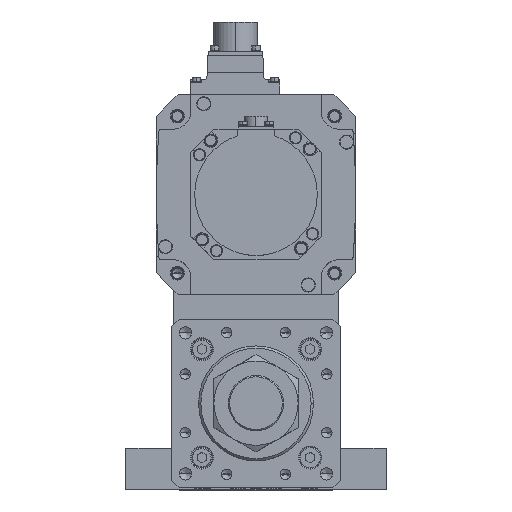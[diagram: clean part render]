
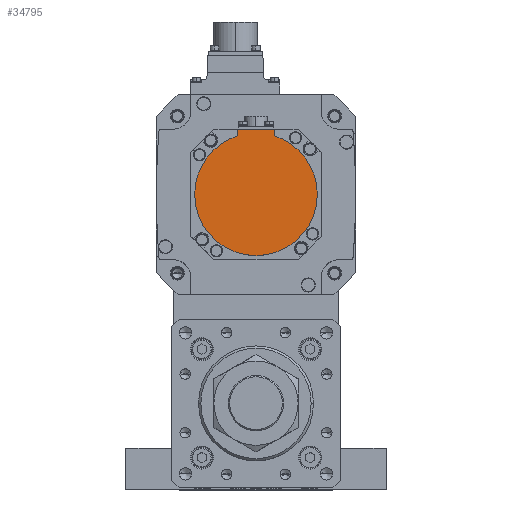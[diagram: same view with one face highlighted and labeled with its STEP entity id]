
A CAD part, top view. The second image highlights one B-rep face of the part: STEP entity #34795.
In plain terms, the highlighted planar face has unit normal (0, 0, 1) as drawn and (0, 0, -1) by its records, which use the part's own axes.
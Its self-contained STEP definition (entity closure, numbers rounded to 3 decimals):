
#69 = DIRECTION ( 'NONE',  ( 0., 0., 1. ) ) ;
#1215 = DIRECTION ( 'NONE',  ( 1., 0., 0. ) ) ;
#1249 = ORIENTED_EDGE ( 'NONE', *, *, #19456, .F. ) ;
#2670 = DIRECTION ( 'NONE',  ( 0., 1., 0. ) ) ;
#3584 = CARTESIAN_POINT ( 'NONE',  ( -12., -40.329, -132.5 ) ) ;
#4799 = FACE_OUTER_BOUND ( 'NONE', #26441, .T. ) ;
#5149 = AXIS2_PLACEMENT_3D ( 'NONE', #23053, #31070, #1215 ) ;
#5410 = ORIENTED_EDGE ( 'NONE', *, *, #15918, .T. ) ;
#5488 = DIRECTION ( 'NONE',  ( 1., 0., 0. ) ) ;
#6257 = AXIS2_PLACEMENT_3D ( 'NONE', #9164, #20417, #15015 ) ;
#6549 = CARTESIAN_POINT ( 'NONE',  ( 40., 0., -132.5 ) ) ;
#6682 = LINE ( 'NONE', #3584, #23013 ) ;
#7034 = VERTEX_POINT ( 'NONE', #6549 ) ;
#7526 = EDGE_CURVE ( 'NONE', #24973, #15841, #6682, .T. ) ;
#9164 = CARTESIAN_POINT ( 'NONE',  ( 0., 0., -132.5 ) ) ;
#10830 = AXIS2_PLACEMENT_3D ( 'NONE', #33177, #24912, #5488 ) ;
#11169 = DIRECTION ( 'NONE',  ( -1., 0., 0. ) ) ;
#11888 = AXIS2_PLACEMENT_3D ( 'NONE', #27608, #69, #19369 ) ;
#12227 = CARTESIAN_POINT ( 'NONE',  ( 12., -38.158, -132.5 ) ) ;
#12809 = EDGE_CURVE ( 'NONE', #16243, #19723, #16475, .T. ) ;
#15015 = DIRECTION ( 'NONE',  ( 1., 0., 0. ) ) ;
#15458 = EDGE_CURVE ( 'NONE', #7034, #19021, #29635, .T. ) ;
#15841 = VERTEX_POINT ( 'NONE', #19793 ) ;
#15886 = ORIENTED_EDGE ( 'NONE', *, *, #15458, .F. ) ;
#15918 = EDGE_CURVE ( 'NONE', #16243, #24973, #30900, .T. ) ;
#16243 = VERTEX_POINT ( 'NONE', #24371 ) ;
#16475 = LINE ( 'NONE', #35092, #28461 ) ;
#17145 = CARTESIAN_POINT ( 'NONE',  ( 0., -42.5, -132.5 ) ) ;
#19021 = VERTEX_POINT ( 'NONE', #31959 ) ;
#19369 = DIRECTION ( 'NONE',  ( 1., 0., 0. ) ) ;
#19456 = EDGE_CURVE ( 'NONE', #19021, #15841, #20858, .T. ) ;
#19723 = VERTEX_POINT ( 'NONE', #12227 ) ;
#19793 = CARTESIAN_POINT ( 'NONE',  ( -12., -38.158, -132.5 ) ) ;
#20417 = DIRECTION ( 'NONE',  ( 0., 0., 1. ) ) ;
#20858 = CIRCLE ( 'NONE', #10830, 40. ) ;
#22404 = CARTESIAN_POINT ( 'NONE',  ( -12., -42.5, -132.5 ) ) ;
#23013 = VECTOR ( 'NONE', #30542, 1000. ) ;
#23053 = CARTESIAN_POINT ( 'NONE',  ( 0., -1.249, -132.5 ) ) ;
#24371 = CARTESIAN_POINT ( 'NONE',  ( 12., -42.5, -132.5 ) ) ;
#24459 = ORIENTED_EDGE ( 'NONE', *, *, #12809, .F. ) ;
#24912 = DIRECTION ( 'NONE',  ( 0., 0., 1. ) ) ;
#24973 = VERTEX_POINT ( 'NONE', #22404 ) ;
#26441 = EDGE_LOOP ( 'NONE', ( #34658, #1249, #15886, #32890, #24459, #5410 ) ) ;
#27016 = VECTOR ( 'NONE', #11169, 1000. ) ;
#27608 = CARTESIAN_POINT ( 'NONE',  ( 0., 0., -132.5 ) ) ;
#28086 = CIRCLE ( 'NONE', #6257, 40. ) ;
#28461 = VECTOR ( 'NONE', #2670, 1000. ) ;
#29635 = CIRCLE ( 'NONE', #11888, 40. ) ;
#30542 = DIRECTION ( 'NONE',  ( 0., 1., 0. ) ) ;
#30900 = LINE ( 'NONE', #17145, #27016 ) ;
#31070 = DIRECTION ( 'NONE',  ( 0., 0., 1. ) ) ;
#31185 = PLANE ( 'NONE',  #5149 ) ;
#31959 = CARTESIAN_POINT ( 'NONE',  ( -40., 0., -132.5 ) ) ;
#32890 = ORIENTED_EDGE ( 'NONE', *, *, #33193, .F. ) ;
#33177 = CARTESIAN_POINT ( 'NONE',  ( 0., 0., -132.5 ) ) ;
#33193 = EDGE_CURVE ( 'NONE', #19723, #7034, #28086, .T. ) ;
#34658 = ORIENTED_EDGE ( 'NONE', *, *, #7526, .T. ) ;
#34795 = ADVANCED_FACE ( 'NONE', ( #4799 ), #31185, .F. ) ;
#35092 = CARTESIAN_POINT ( 'NONE',  ( 12., -1.249, -132.5 ) ) ;
